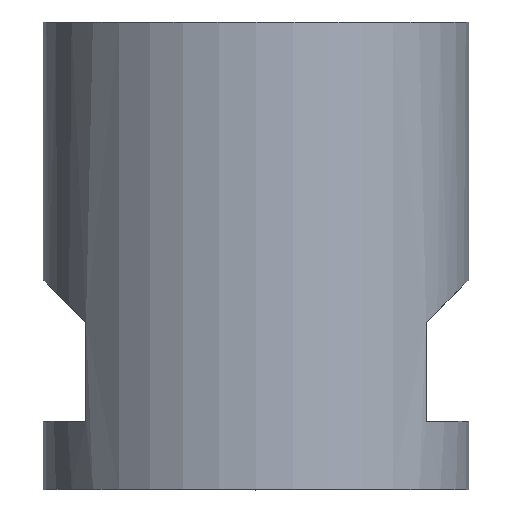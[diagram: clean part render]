
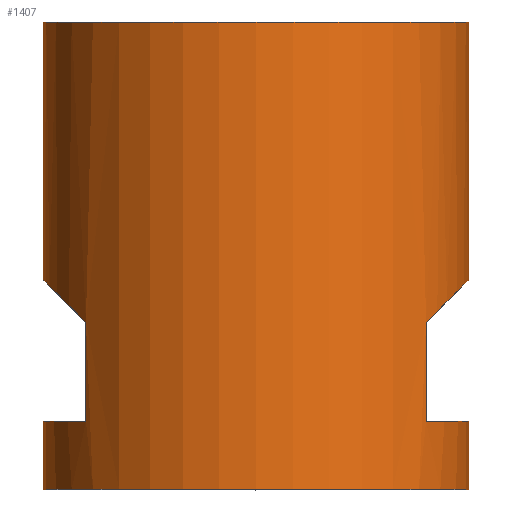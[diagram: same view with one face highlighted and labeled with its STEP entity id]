
A CAD part, top view. The second image highlights one B-rep face of the part: STEP entity #1407.
In plain terms, the highlighted cylindrical face has radius 18.123 mm (diameter 36.246 mm), a full revolution.
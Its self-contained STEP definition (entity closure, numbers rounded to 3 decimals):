
#67=FACE_BOUND('',#261,.T.);
#68=ELLIPSE('',#1429,25.63,18.123);
#69=ELLIPSE('',#1430,25.63,18.123);
#70=ELLIPSE('',#1433,25.63,18.123);
#71=ELLIPSE('',#1434,25.63,18.123);
#176=FACE_OUTER_BOUND('',#260,.T.);
#260=EDGE_LOOP('',(#1293,#1294,#1295,#1296,#1297,#1298,#1299,#1300,#1301,
#1302,#1303,#1304,#1305,#1306));
#261=EDGE_LOOP('',(#1307,#1308,#1309,#1310,#1311,#1312));
#264=CIRCLE('',#1437,18.123);
#265=CIRCLE('',#1439,18.123);
#266=CIRCLE('',#1440,18.123);
#267=CIRCLE('',#1442,18.123);
#268=CIRCLE('',#1443,18.123);
#272=CIRCLE('',#1449,18.123);
#296=CIRCLE('',#1539,18.123);
#297=CIRCLE('',#1541,18.123);
#387=LINE('',#2352,#471);
#389=LINE('',#2355,#473);
#392=LINE('',#2367,#476);
#394=LINE('',#2370,#478);
#462=LINE('',#3618,#546);
#463=LINE('',#3619,#547);
#471=VECTOR('',#1570,10.);
#473=VECTOR('',#1572,10.);
#476=VECTOR('',#1583,10.);
#478=VECTOR('',#1585,10.);
#546=VECTOR('',#1863,18.123);
#547=VECTOR('',#1864,18.123);
#576=VERTEX_POINT('',#2342);
#577=VERTEX_POINT('',#2343);
#578=VERTEX_POINT('',#2345);
#579=VERTEX_POINT('',#2347);
#580=VERTEX_POINT('',#2351);
#581=VERTEX_POINT('',#2353);
#582=VERTEX_POINT('',#2357);
#583=VERTEX_POINT('',#2358);
#584=VERTEX_POINT('',#2360);
#585=VERTEX_POINT('',#2362);
#586=VERTEX_POINT('',#2366);
#587=VERTEX_POINT('',#2368);
#588=VERTEX_POINT('',#2374);
#589=VERTEX_POINT('',#2378);
#593=VERTEX_POINT('',#2390);
#681=VERTEX_POINT('',#3615);
#712=EDGE_CURVE('',#576,#577,#68,.T.);
#714=EDGE_CURVE('',#578,#579,#69,.T.);
#716=EDGE_CURVE('',#580,#577,#387,.T.);
#718=EDGE_CURVE('',#578,#581,#389,.T.);
#719=EDGE_CURVE('',#582,#583,#70,.T.);
#721=EDGE_CURVE('',#584,#585,#71,.T.);
#723=EDGE_CURVE('',#586,#585,#392,.T.);
#725=EDGE_CURVE('',#583,#587,#394,.T.);
#726=EDGE_CURVE('',#584,#582,#264,.T.);
#727=EDGE_CURVE('',#588,#579,#265,.T.);
#728=EDGE_CURVE('',#576,#588,#266,.T.);
#729=EDGE_CURVE('',#589,#580,#267,.T.);
#730=EDGE_CURVE('',#581,#589,#268,.T.);
#735=EDGE_CURVE('',#593,#593,#272,.T.);
#889=EDGE_CURVE('',#681,#681,#296,.T.);
#890=EDGE_CURVE('',#593,#588,#462,.T.);
#891=EDGE_CURVE('',#589,#681,#463,.T.);
#892=EDGE_CURVE('',#587,#586,#297,.T.);
#1293=ORIENTED_EDGE('',*,*,#735,.F.);
#1294=ORIENTED_EDGE('',*,*,#890,.T.);
#1295=ORIENTED_EDGE('',*,*,#727,.T.);
#1296=ORIENTED_EDGE('',*,*,#714,.F.);
#1297=ORIENTED_EDGE('',*,*,#718,.T.);
#1298=ORIENTED_EDGE('',*,*,#730,.T.);
#1299=ORIENTED_EDGE('',*,*,#891,.T.);
#1300=ORIENTED_EDGE('',*,*,#889,.F.);
#1301=ORIENTED_EDGE('',*,*,#891,.F.);
#1302=ORIENTED_EDGE('',*,*,#729,.T.);
#1303=ORIENTED_EDGE('',*,*,#716,.T.);
#1304=ORIENTED_EDGE('',*,*,#712,.F.);
#1305=ORIENTED_EDGE('',*,*,#728,.T.);
#1306=ORIENTED_EDGE('',*,*,#890,.F.);
#1307=ORIENTED_EDGE('',*,*,#721,.F.);
#1308=ORIENTED_EDGE('',*,*,#726,.T.);
#1309=ORIENTED_EDGE('',*,*,#719,.T.);
#1310=ORIENTED_EDGE('',*,*,#725,.T.);
#1311=ORIENTED_EDGE('',*,*,#892,.T.);
#1312=ORIENTED_EDGE('',*,*,#723,.T.);
#1327=CYLINDRICAL_SURFACE('',#1540,18.123);
#1407=ADVANCED_FACE('',(#176,#67),#1327,.T.);
#1429=AXIS2_PLACEMENT_3D('',#2344,#1562,#1563);
#1430=AXIS2_PLACEMENT_3D('',#2348,#1565,#1566);
#1433=AXIS2_PLACEMENT_3D('',#2359,#1575,#1576);
#1434=AXIS2_PLACEMENT_3D('',#2363,#1578,#1579);
#1437=AXIS2_PLACEMENT_3D('',#2372,#1588,#1589);
#1439=AXIS2_PLACEMENT_3D('',#2375,#1592,#1593);
#1440=AXIS2_PLACEMENT_3D('',#2376,#1594,#1595);
#1442=AXIS2_PLACEMENT_3D('',#2379,#1598,#1599);
#1443=AXIS2_PLACEMENT_3D('',#2380,#1600,#1601);
#1449=AXIS2_PLACEMENT_3D('',#2391,#1613,#1614);
#1539=AXIS2_PLACEMENT_3D('',#3616,#1859,#1860);
#1540=AXIS2_PLACEMENT_3D('',#3617,#1861,#1862);
#1541=AXIS2_PLACEMENT_3D('',#3620,#1865,#1866);
#1562=DIRECTION('center_axis',(-0.707,-0.707,0.));
#1563=DIRECTION('ref_axis',(0.707,-0.707,0.));
#1565=DIRECTION('center_axis',(-0.707,-0.707,0.));
#1566=DIRECTION('ref_axis',(0.707,-0.707,0.));
#1570=DIRECTION('',(0.,1.,0.));
#1572=DIRECTION('',(0.,-1.,0.));
#1575=DIRECTION('center_axis',(-0.707,0.707,0.));
#1576=DIRECTION('ref_axis',(0.707,0.707,0.));
#1578=DIRECTION('center_axis',(0.707,-0.707,0.));
#1579=DIRECTION('ref_axis',(0.707,0.707,0.));
#1583=DIRECTION('',(0.,1.,0.));
#1585=DIRECTION('',(0.,-1.,0.));
#1588=DIRECTION('center_axis',(0.,1.,0.));
#1589=DIRECTION('ref_axis',(1.,0.,0.));
#1592=DIRECTION('center_axis',(0.,1.,0.));
#1593=DIRECTION('ref_axis',(1.,0.,0.));
#1594=DIRECTION('center_axis',(0.,1.,0.));
#1595=DIRECTION('ref_axis',(1.,0.,0.));
#1598=DIRECTION('center_axis',(0.,-1.,0.));
#1599=DIRECTION('ref_axis',(1.,0.,0.));
#1600=DIRECTION('center_axis',(0.,-1.,0.));
#1601=DIRECTION('ref_axis',(1.,0.,0.));
#1613=DIRECTION('center_axis',(0.,1.,0.));
#1614=DIRECTION('ref_axis',(1.,0.,0.));
#1859=DIRECTION('center_axis',(0.,-1.,0.));
#1860=DIRECTION('ref_axis',(1.,0.,0.));
#1861=DIRECTION('center_axis',(0.,1.,0.));
#1862=DIRECTION('ref_axis',(1.,0.,0.));
#1863=DIRECTION('',(0.,-1.,0.));
#1864=DIRECTION('',(0.,-1.,0.));
#1865=DIRECTION('center_axis',(0.,-1.,0.));
#1866=DIRECTION('ref_axis',(1.,0.,0.));
#2342=CARTESIAN_POINT('',(-18.044,-153.057,-33.347));
#2343=CARTESIAN_POINT('',(-14.488,-156.613,-42.455));
#2344=CARTESIAN_POINT('Origin',(-0.01,-171.091,
-31.554));
#2345=CARTESIAN_POINT('',(-14.488,-156.613,-20.654));
#2347=CARTESIAN_POINT('',(-18.044,-153.057,-29.761));
#2348=CARTESIAN_POINT('Origin',(-0.01,-171.091,
-31.554));
#2351=CARTESIAN_POINT('',(-14.488,-165.021,-42.455));
#2352=CARTESIAN_POINT('',(-14.488,-170.827,-42.455));
#2353=CARTESIAN_POINT('',(-14.488,-165.021,-20.654));
#2355=CARTESIAN_POINT('',(-14.488,-170.827,-20.654));
#2357=CARTESIAN_POINT('',(18.024,-153.057,-33.347));
#2358=CARTESIAN_POINT('',(14.468,-156.613,-42.455));
#2359=CARTESIAN_POINT('Origin',(-0.01,-171.091,
-31.554));
#2360=CARTESIAN_POINT('',(18.024,-153.057,-29.761));
#2362=CARTESIAN_POINT('',(14.468,-156.613,-20.654));
#2363=CARTESIAN_POINT('Origin',(-0.01,-171.091,
-31.554));
#2366=CARTESIAN_POINT('',(14.468,-165.021,-20.654));
#2367=CARTESIAN_POINT('',(14.468,-170.827,-20.654));
#2368=CARTESIAN_POINT('',(14.468,-165.021,-42.455));
#2370=CARTESIAN_POINT('',(14.468,-170.827,-42.455));
#2372=CARTESIAN_POINT('Origin',(-0.01,-153.057,
-31.554));
#2374=CARTESIAN_POINT('',(-18.132,-153.057,-31.554));
#2375=CARTESIAN_POINT('Origin',(-0.01,-153.057,
-31.554));
#2376=CARTESIAN_POINT('Origin',(-0.01,-153.057,
-31.554));
#2378=CARTESIAN_POINT('',(-18.132,-165.021,-31.554));
#2379=CARTESIAN_POINT('Origin',(-0.01,-165.021,
-31.554));
#2380=CARTESIAN_POINT('Origin',(-0.01,-165.021,
-31.554));
#2390=CARTESIAN_POINT('',(-18.132,-131.05,-31.554));
#2391=CARTESIAN_POINT('Origin',(-0.01,-131.05,-31.554));
#3615=CARTESIAN_POINT('',(-18.132,-170.827,-31.554));
#3616=CARTESIAN_POINT('Origin',(-0.01,-170.827,
-31.554));
#3617=CARTESIAN_POINT('Origin',(-0.01,-170.827,
-31.554));
#3618=CARTESIAN_POINT('',(-18.132,-170.827,-31.554));
#3619=CARTESIAN_POINT('',(-18.132,-170.827,-31.554));
#3620=CARTESIAN_POINT('Origin',(-0.01,-165.021,
-31.554));
